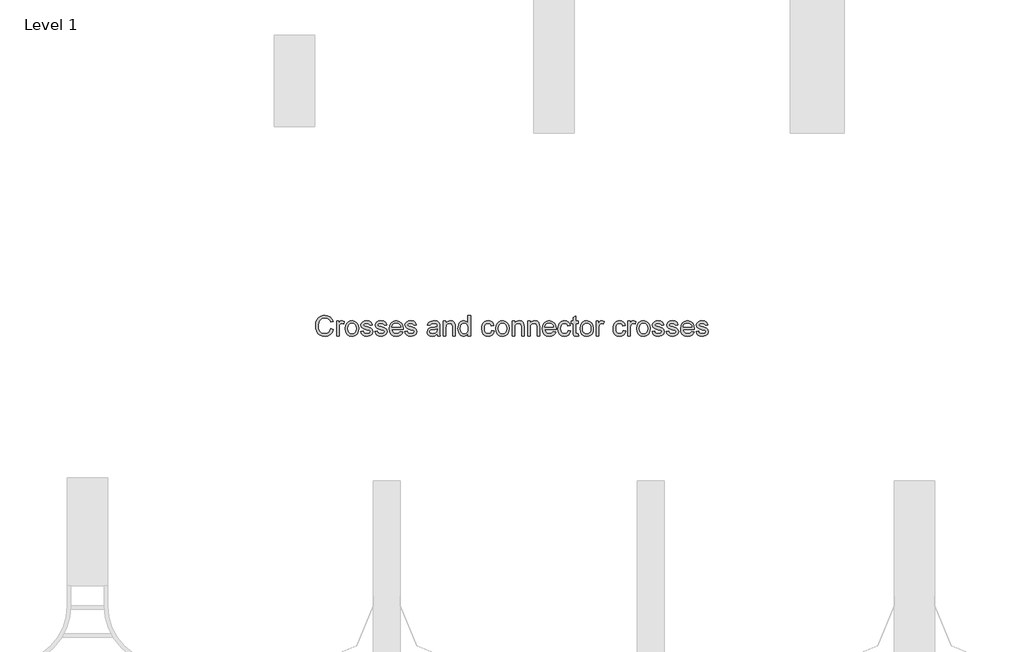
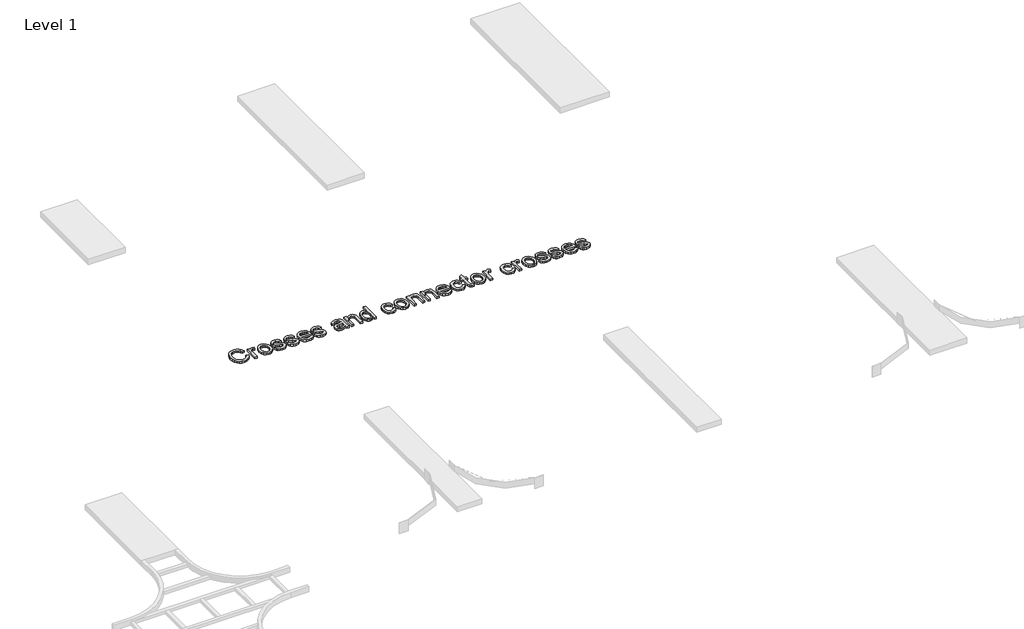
# One storey, part 47 of 106: 1 proxy.
"""IFC4 building model written with IfcOpenShell, lengths in millimetres."""

from ifc_helpers import new_model, si_unit, origin, origin_with_axes, place, context, project, spatial, polyline, outline, extrude, element, save

model = new_model("IFC4")

# Units and contexts
model_context = context("Model", 3, world=origin())
ifc_project = project(units=[si_unit("LENGTHUNIT", "METRE", prefix="MILLI")], contexts=[model_context])

# Site, building, storey
site = spatial("IfcSite", under=ifc_project)
building = spatial("IfcBuilding", under=site)
storey = spatial("IfcBuildingStorey", under=building, Name="Level 1", Elevation=0.0)

# Proxy
placement = place(None, origin())
element("IfcBuildingElementProxy", 1, Name="150mm Arial 2", ObjectType="150mm Arial 2", at=placement, inside=storey, context=model_context, shape_type="SweptSolid", body=[
    extrude(outline(polyline([(54473.187076, 30901.4112533), (54492.0226342, 30896.5552109), (54483.331422, 30874.6064514), (54469.6921971, 30858.5713949), (54451.7763439, 30848.7627412), (54430.2552472, 30845.49319), (54408.4076552, 30847.9671964), (54391.0574206, 30855.3892157), (54377.7584865, 30867.5017304), (54368.0647959, 30884.0472231), (54362.1464943, 30903.4989836), (54360.1737271, 30924.3303016), (54362.4040117, 30946.3020537), (54369.0948655, 30965.2755676), (54379.8968006, 30980.6484365), (54394.460329, 30991.8182536), (54411.7323887, 30998.619472), (54430.6599174, 31000.8865448), (54451.3118929, 30997.9526859), (54468.386216, 30989.1511091), (54481.3494578, 30975.0244405), (54489.6681894, 30956.115306), (54470.8326312, 30951.6271456), (54464.3027258, 30965.3629396), (54455.3815874, 30974.7853172), (54443.9588515, 30980.2345693), (54429.9241534, 30982.0509866), (54413.7465426, 30980.0368327), (54400.4568056, 30973.9943709), (54390.3722404, 30964.5581977), (54383.8101453, 30952.3629096), (54379.0092852, 30924.3670898), (54380.4302295, 30906.9662714), (54384.6930621, 30891.9198978), (54391.9587315, 30879.8027846), (54402.388186, 30871.1897474), (54414.8915754, 30866.043998), (54428.379049, 30864.3287482), (54444.1014058, 30866.6647988), (54457.2026033, 30873.6729508), (54467.0940305, 30885.2796278), (54473.187076, 30901.4112533)])), origin_with_axes(), (0.0, 0.0, 1.0), 15.0),
    extrude(outline(polyline([(54515.5670819, 30847.8476348), (54515.5670819, 30958.5065389), (54532.0481952, 30958.5065389), (54532.0481952, 30942.1357901), (54543.7468427, 30957.2189519), (54555.5190665, 30960.8609837), (54574.4282011, 30955.0484482), (54568.137419, 30938.1626646), (54554.8936671, 30942.0254255), (54544.2434834, 30938.3098174), (54537.4560606, 30928.0091215), (54534.40264, 30906.0097782), (54534.40264, 30847.8476348), (54515.5670819, 30847.8476348)])), origin_with_axes(), (0.0, 0.0, 1.0), 15.0),
    extrude(outline(polyline([(54581.4915354, 30903.1770869), (54585.5658285, 30929.8577286), (54597.7887078, 30948.6105133), (54612.8902637, 30957.7983661), (54630.9716637, 30960.8609837), (54650.7591166, 30957.13158), (54666.5642468, 30945.9433688), (54676.9247235, 30928.179267), (54680.3782157, 30904.7221912), (54678.8515054, 30885.693495), (54674.2713746, 30871.2081415), (54666.7711804, 30860.3602211), (54656.4842801, 30852.2438246), (54644.2659993, 30847.1808487), (54630.9716637, 30845.49319), (54610.9450876, 30849.2087982), (54595.1583515, 30860.3556226), (54584.9082394, 30878.492205), (54581.4915354, 30903.1770869)]), holes=[polyline([(54600.3270935, 30903.2138751), (54602.5067944, 30886.1671431), (54609.0458968, 30874.0224387), (54618.8867402, 30866.7521708), (54630.9716637, 30864.3287482), (54643.001405, 30866.7659664), (54652.8238543, 30874.077621), (54659.3629567, 30886.3832738), (54661.5426575, 30903.8024862), (54659.3491611, 30920.3525775), (54652.768672, 30932.331735), (54642.9324271, 30939.6020029), (54630.9716637, 30942.0254255), (54618.8867402, 30939.6112), (54609.0458968, 30932.3685232), (54602.5067944, 30920.25141), (54600.3270935, 30903.2138751)])]), origin_with_axes(), (0.0, 0.0, 1.0), 15.0),
    extrude(outline(polyline([(54694.5048843, 30880.8098615), (54713.3404425, 30883.1643063), (54716.3110896, 30875.1076906), (54722.0592457, 30869.1847905), (54742.0352381, 30864.3287482), (54761.2386782, 30868.7801203), (54767.4926722, 30879.227969), (54765.9199766, 30884.028829), (54761.20189, 30887.6892549), (54741.8145089, 30893.060332), (54713.4508071, 30902.275776), (54701.0715779, 30913.0363243), (54696.8593291, 30928.2298507), (54700.2438434, 30942.2645488), (54709.4776815, 30952.988309), (54721.4522405, 30958.5617212), (54737.6574423, 30960.8609837), (54760.5764906, 30957.1637696), (54775.1446177, 30947.1573794), (54781.6193408, 30930.2532017), (54762.7837826, 30927.8987569), (54755.7020542, 30938.2914233), (54739.1289703, 30942.0254255), (54721.1027526, 30938.4569702), (54715.6948872, 30930.1428371), (54717.9389674, 30924.6613954), (54724.9655135, 30920.5043288), (54741.1891095, 30916.4944151), (54768.8354414, 30907.628459), (54781.6745231, 30897.5852805), (54786.3282303, 30881.2145317), (54780.8651827, 30863.188314), (54765.1014392, 30850.1101091), (54741.7777207, 30845.49319), (54722.7858127, 30847.7188761), (54708.9258585, 30854.3959343), (54699.6736263, 30865.4507882), (54694.5048843, 30880.8098615)])), origin_with_axes(), (0.0, 0.0, 1.0), 15.0),
    extrude(outline(polyline([(54800.4548989, 30880.8098615), (54819.2904571, 30883.1643063), (54822.2611042, 30875.1076906), (54828.0092604, 30869.1847905), (54847.9852527, 30864.3287482), (54867.1886928, 30868.7801203), (54873.4426868, 30879.227969), (54871.8699912, 30884.028829), (54867.1519046, 30887.6892549), (54847.7645235, 30893.060332), (54819.4008217, 30902.275776), (54807.0215925, 30913.0363243), (54802.8093437, 30928.2298507), (54806.193858, 30942.2645488), (54815.4276961, 30952.988309), (54827.4022551, 30958.5617212), (54843.607457, 30960.8609837), (54866.5265053, 30957.1637696), (54881.0946323, 30947.1573794), (54887.5693554, 30930.2532017), (54868.7337972, 30927.8987569), (54861.6520688, 30938.2914233), (54845.0789849, 30942.0254255), (54827.0527672, 30938.4569702), (54821.6449018, 30930.1428371), (54823.888982, 30924.6613954), (54830.9155281, 30920.5043288), (54847.1391241, 30916.4944151), (54874.785456, 30907.628459), (54887.6245377, 30897.5852805), (54892.2782449, 30881.2145317), (54886.8151973, 30863.188314), (54871.0514538, 30850.1101091), (54847.7277353, 30845.49319), (54828.7358273, 30847.7188761), (54814.8758731, 30854.3959343), (54805.623641, 30865.4507882), (54800.4548989, 30880.8098615)])), origin_with_axes(), (0.0, 0.0, 1.0), 15.0),
    extrude(outline(polyline([(54990.944196, 30880.8098615), (55009.4118722, 30878.4554168), (55002.7578066, 30864.5402803), (54992.1398125, 30854.1384169), (54977.7970132, 30847.6544967), (54959.968532, 30845.49319), (54937.8680212, 30849.2225937), (54920.8626759, 30860.4108049), (54910.0193541, 30878.3312566), (54906.4049135, 30902.2573819), (54910.0561423, 30926.988249), (54921.0098287, 30945.4835163), (54937.7852477, 30957.0166168), (54958.9016742, 30960.8609837), (54979.3605117, 30957.0258139), (54995.7082679, 30945.5203045), (55006.4274295, 30927.0618254), (55010.0004834, 30902.3677465), (55009.8901188, 30897.2909749), (54925.2404717, 30897.2909749), (54928.5008259, 30883.1918975), (54936.0745964, 30872.8268223), (54947.0052902, 30866.4532667), (54960.336414, 30864.3287482), (54978.8040902, 30868.2650855), (54990.944196, 30880.8098615)]), holes=[polyline([(54925.2404717, 30916.1265331), (54991.1649252, 30916.1265331), (54988.6173424, 30926.0777411), (54983.6233443, 30933.1962577), (54972.6420668, 30939.8181336), (54958.8280978, 30942.0254255), (54946.1315705, 30940.2641905), (54935.633138, 30934.9804853), (54928.335279, 30926.7445272), (54925.2404717, 30916.1265331)])]), origin_with_axes(), (0.0, 0.0, 1.0), 15.0),
    extrude(outline(polyline([(55021.7727072, 30880.8098615), (55040.6082654, 30883.1643063), (55043.5789125, 30875.1076906), (55049.3270687, 30869.1847905), (55069.303061, 30864.3287482), (55088.5065011, 30868.7801203), (55094.7604951, 30879.227969), (55093.1877995, 30884.028829), (55088.4697129, 30887.6892549), (55069.0823318, 30893.060332), (55040.71863, 30902.275776), (55028.3394008, 30913.0363243), (55024.127152, 30928.2298507), (55027.5116663, 30942.2645488), (55036.7455044, 30952.988309), (55048.7200634, 30958.5617212), (55064.9252653, 30960.8609837), (55087.8443136, 30957.1637696), (55102.4124406, 30947.1573794), (55108.8871637, 30930.2532017), (55090.0516055, 30927.8987569), (55082.9698771, 30938.2914233), (55066.3967932, 30942.0254255), (55048.3705755, 30938.4569702), (55042.9627101, 30930.1428371), (55045.2067903, 30924.6613954), (55052.2333364, 30920.5043288), (55068.4569324, 30916.4944151), (55096.1032643, 30907.628459), (55108.942346, 30897.5852805), (55113.5960532, 30881.2145317), (55108.1330056, 30863.188314), (55092.3692621, 30850.1101091), (55069.0455436, 30845.49319), (55050.0536356, 30847.7188761), (55036.1936814, 30854.3959343), (55026.9414493, 30865.4507882), (55021.7727072, 30880.8098615)])), origin_with_axes(), (0.0, 0.0, 1.0), 15.0),
    extrude(outline(polyline([(55264.2805184, 30861.9743034), (55246.0151774, 30849.2087982), (55225.8368499, 30845.49319), (55210.0960991, 30847.7280731), (55198.4848236, 30854.4327225), (55191.3249203, 30864.6138567), (55188.9382858, 30877.2781944), (55192.5435294, 30892.1774152), (55202.0164908, 30902.9931459), (55215.2050603, 30909.1735634), (55231.5022327, 30912.0062547), (55264.1701538, 30918.4809779), (55264.2805184, 30922.6748326), (55262.9837344, 30931.0809362), (55259.0933823, 30936.580772), (55250.3929731, 30940.6642622), (55238.2712614, 30942.0254255), (55219.214974, 30938.4017879), (55210.1282887, 30925.5443122), (55191.2927306, 30927.8987569), (55199.4413168, 30946.2928567), (55215.8488538, 30957.0717991), (55240.6992825, 30960.8609837), (55263.5263603, 30957.5132575), (55276.4206243, 30949.107154), (55282.1963716, 30936.3232546), (55283.1160766, 30919.8421412), (55283.1160766, 30896.4080581), (55284.0725698, 30863.6849547), (55287.8249661, 30847.8476348), (55268.989408, 30847.8476348), (55264.2805184, 30861.9743034)]), holes=[polyline([(55264.2805184, 30899.6454197), (55233.8934656, 30893.8696724), (55217.6882638, 30890.8162518), (55210.3490179, 30885.8498449), (55207.773844, 30878.6025696), (55213.3840444, 30868.4122383), (55229.8467637, 30864.3287482), (55248.903051, 30868.8353026), (55261.1903097, 30879.7430038), (55264.1701538, 30894.3111308), (55264.2805184, 30899.6454197)])]), origin_with_axes(), (0.0, 0.0, 1.0), 15.0),
    extrude(outline(polyline([(55309.0149691, 30847.8476348), (55309.0149691, 30958.5065389), (55327.8505272, 30958.5065389), (55327.8505272, 30943.0554951), (55342.2531073, 30956.4096116), (55361.9164, 30960.8609837), (55379.7034944, 30957.2741342), (55391.8436003, 30947.8563552), (55397.4905889, 30934.0055981), (55398.4838703, 30915.7954393), (55398.4838703, 30847.8476348), (55379.6483121, 30847.8476348), (55379.6483121, 30913.2570535), (55377.4778084, 30929.9221079), (55369.8074688, 30938.7328817), (55356.8764166, 30942.0254255), (55345.8445553, 30940.1768185), (55336.4405718, 30934.6309974), (55329.9980384, 30923.9164343), (55327.8505272, 30906.5616012), (55327.8505272, 30847.8476348), (55309.0149691, 30847.8476348)])), origin_with_axes(), (0.0, 0.0, 1.0), 15.0),
    extrude(outline(polyline([(55492.661661, 30847.8476348), (55492.661661, 30865.6163351), (55480.1996585, 30850.5239763), (55462.973584, 30845.49319), (55450.79669, 30847.3142059), (55439.6498655, 30852.7772535), (55430.2136924, 30861.5006553), (55423.1687522, 30873.1027337), (55418.7817594, 30887.1144392), (55417.3194284, 30903.0667223), (55422.7088997, 30933.0491049), (55429.4411402, 30944.9408904), (55438.8589193, 30953.6872848), (55450.2494655, 30959.067559), (55462.9000076, 30960.8609837), (55480.2640378, 30955.7290299), (55492.661661, 30942.3933075), (55492.661661, 30998.5321), (55511.4972192, 30998.5321), (55511.4972192, 30847.8476348), (55492.661661, 30847.8476348)]), holes=[polyline([(55436.1549866, 30903.1402987), (55438.2795051, 30886.1027638), (55444.6530607, 30873.9856505), (55453.9144899, 30866.7429738), (55464.7026294, 30864.3287482), (55475.4861704, 30866.6326092), (55484.5130749, 30873.5441921), (55490.6245145, 30885.1922558), (55492.661661, 30901.7055589), (55490.5877263, 30919.7593678), (55484.3659221, 30932.2765527), (55475.1090914, 30939.5882073), (55463.9300772, 30942.0254255), (55453.0315731, 30939.6847764), (55444.1012377, 30932.6628288), (55438.1415494, 30920.6008979), (55436.1549866, 30903.1402987)])]), origin_with_axes(), (0.0, 0.0, 1.0), 15.0),
    extrude(outline(polyline([(55669.2450187, 30887.8731959), (55688.0805769, 30885.5187511), (55682.8290614, 30868.7663247), (55672.9606269, 30856.1065856), (55659.4041754, 30848.1465389), (55643.0886089, 30845.49319), (55623.0528357, 30849.1950026), (55607.3856612, 30860.3004403), (55597.2735049, 30878.3220596), (55593.9027861, 30902.7724167), (55595.3421244, 30919.5340401), (55599.6601393, 30934.0607803), (55606.9258087, 30945.7916175), (55617.2081105, 30954.1655314), (55629.5091647, 30959.1871206), (55642.8310915, 30960.8609837), (55658.7465863, 30958.5617212), (55671.4707048, 30951.6639338), (55680.5987768, 30940.5355035), (55685.7261321, 30925.5443122), (55666.890574, 30923.1898674), (55658.1533766, 30937.2981419), (55642.9782443, 30942.0254255), (55630.8059488, 30939.6985719), (55621.1444479, 30932.7180111), (55614.8398702, 30920.7066639), (55612.7383443, 30903.2874515), (55614.7938849, 30885.6337142), (55620.9605069, 30873.5809803), (55630.4472638, 30866.6418062), (55642.4632095, 30864.3287482), (55652.2166809, 30865.772685), (55660.2135157, 30870.1044955), (55666.0306498, 30877.4345442), (55669.2450187, 30887.8731959)])), origin_with_axes(), (0.0, 0.0, 1.0), 15.0),
    extrude(outline(polyline([(55699.8528007, 30903.1770869), (55703.9270938, 30929.8577286), (55716.1499731, 30948.6105133), (55731.251529, 30957.7983661), (55749.3329291, 30960.8609837), (55769.1203819, 30957.13158), (55784.9255121, 30945.9433688), (55795.2859888, 30928.179267), (55798.739481, 30904.7221912), (55797.2127708, 30885.693495), (55792.6326399, 30871.2081415), (55785.1324457, 30860.3602211), (55774.8455454, 30852.2438246), (55762.6272647, 30847.1808487), (55749.3329291, 30845.49319), (55729.306353, 30849.2087982), (55713.5196168, 30860.3556226), (55703.2695048, 30878.492205), (55699.8528007, 30903.1770869)]), holes=[polyline([(55718.6883589, 30903.2138751), (55720.8680597, 30886.1671431), (55727.4071622, 30874.0224387), (55737.2480055, 30866.7521708), (55749.3329291, 30864.3287482), (55761.3626703, 30866.7659664), (55771.1851196, 30874.077621), (55777.7242221, 30886.3832738), (55779.9039229, 30903.8024862), (55777.7104265, 30920.3525775), (55771.1299373, 30932.331735), (55761.2936924, 30939.6020029), (55749.3329291, 30942.0254255), (55737.2480055, 30939.6112), (55727.4071622, 30932.3685232), (55720.8680597, 30920.25141), (55718.6883589, 30903.2138751)])]), origin_with_axes(), (0.0, 0.0, 1.0), 15.0),
    extrude(outline(polyline([(55819.929484, 30847.8476348), (55819.929484, 30958.5065389), (55838.7650421, 30958.5065389), (55838.7650421, 30943.0554951), (55853.1676222, 30956.4096116), (55872.8309149, 30960.8609837), (55890.6180093, 30957.2741342), (55902.7581152, 30947.8563552), (55908.4051038, 30934.0055981), (55909.3983852, 30915.7954393), (55909.3983852, 30847.8476348), (55890.562827, 30847.8476348), (55890.562827, 30913.2570535), (55888.3923233, 30929.9221079), (55880.7219837, 30938.7328817), (55867.7909315, 30942.0254255), (55856.7590702, 30940.1768185), (55847.3550867, 30934.6309974), (55840.9125533, 30923.9164343), (55838.7650421, 30906.5616012), (55838.7650421, 30847.8476348), (55819.929484, 30847.8476348)])), origin_with_axes(), (0.0, 0.0, 1.0), 15.0),
    extrude(outline(polyline([(55935.2972776, 30847.8476348), (55935.2972776, 30958.5065389), (55954.1328358, 30958.5065389), (55954.1328358, 30943.0554951), (55968.5354159, 30956.4096116), (55988.1987085, 30960.8609837), (56005.985803, 30957.2741342), (56018.1259089, 30947.8563552), (56023.7728975, 30934.0055981), (56024.7661789, 30915.7954393), (56024.7661789, 30847.8476348), (56005.9306207, 30847.8476348), (56005.9306207, 30913.2570535), (56003.7601169, 30929.9221079), (55996.0897773, 30938.7328817), (55983.1587252, 30942.0254255), (55972.1268639, 30940.1768185), (55962.7228804, 30934.6309974), (55956.2803469, 30923.9164343), (55954.1328358, 30906.5616012), (55954.1328358, 30847.8476348), (55935.2972776, 30847.8476348)])), origin_with_axes(), (0.0, 0.0, 1.0), 15.0),
    extrude(outline(polyline([(56128.1410195, 30880.8098615), (56146.6086957, 30878.4554168), (56139.9546301, 30864.5402803), (56129.336636, 30854.1384169), (56114.9938367, 30847.6544967), (56097.1653555, 30845.49319), (56075.0648447, 30849.2225937), (56058.0594994, 30860.4108049), (56047.2161776, 30878.3312566), (56043.601737, 30902.2573819), (56047.2529658, 30926.988249), (56058.2066522, 30945.4835163), (56074.9820712, 30957.0166168), (56096.0984977, 30960.8609837), (56116.5573352, 30957.0258139), (56132.9050914, 30945.5203045), (56143.624253, 30927.0618254), (56147.1973069, 30902.3677465), (56147.0869423, 30897.2909749), (56062.4372952, 30897.2909749), (56065.6976494, 30883.1918975), (56073.2714199, 30872.8268223), (56084.2021137, 30866.4532667), (56097.5332375, 30864.3287482), (56116.0009137, 30868.2650855), (56128.1410195, 30880.8098615)]), holes=[polyline([(56062.4372952, 30916.1265331), (56128.3617487, 30916.1265331), (56125.8141659, 30926.0777411), (56120.8201678, 30933.1962577), (56109.8388903, 30939.8181336), (56096.0249213, 30942.0254255), (56083.328394, 30940.2641905), (56072.8299615, 30934.9804853), (56065.5321025, 30926.7445272), (56062.4372952, 30916.1265331)])]), origin_with_axes(), (0.0, 0.0, 1.0), 15.0),
    extrude(outline(polyline([(56236.6662081, 30887.8731959), (56255.5017662, 30885.5187511), (56250.2502508, 30868.7663247), (56240.3818162, 30856.1065856), (56226.8253647, 30848.1465389), (56210.5097982, 30845.49319), (56190.4740251, 30849.1950026), (56174.8068506, 30860.3004403), (56164.6946943, 30878.3220596), (56161.3239755, 30902.7724167), (56162.7633138, 30919.5340401), (56167.0813287, 30934.0607803), (56174.3469981, 30945.7916175), (56184.6292999, 30954.1655314), (56196.9303541, 30959.1871206), (56210.2522808, 30960.8609837), (56226.1677757, 30958.5617212), (56238.8918942, 30951.6639338), (56248.0199662, 30940.5355035), (56253.1473215, 30925.5443122), (56234.3117633, 30923.1898674), (56225.5745659, 30937.2981419), (56210.3994336, 30942.0254255), (56198.2271381, 30939.6985719), (56188.5656372, 30932.7180111), (56182.2610595, 30920.7066639), (56180.1595336, 30903.2874515), (56182.2150743, 30885.6337142), (56188.3816962, 30873.5809803), (56197.8684532, 30866.6418062), (56209.8843988, 30864.3287482), (56219.6378702, 30865.772685), (56227.6347051, 30870.1044955), (56233.4518392, 30877.4345442), (56236.6662081, 30887.8731959)])), origin_with_axes(), (0.0, 0.0, 1.0), 15.0),
    extrude(outline(polyline([(56312.0084407, 30863.556196), (56314.3628855, 30847.2958118), (56300.2730051, 30845.49319), (56284.4908675, 30848.620187), (56276.6181928, 30856.8239555), (56274.3373244, 30878.1978994), (56274.3373244, 30939.6709808), (56260.2106558, 30939.6709808), (56260.2106558, 30958.5065389), (56274.3373244, 30958.5065389), (56274.3373244, 30985.3987128), (56293.1728826, 30996.4719608), (56293.1728826, 30958.5065389), (56312.0084407, 30958.5065389), (56312.0084407, 30939.6709808), (56293.1728826, 30939.6709808), (56293.1728826, 30878.7497224), (56294.1661639, 30869.0376377), (56297.3851314, 30865.597941), (56303.8046722, 30864.3287482), (56312.0084407, 30863.556196)])), origin_with_axes(), (0.0, 0.0, 1.0), 15.0),
    extrude(outline(polyline([(56326.1351093, 30903.1770869), (56330.2094024, 30929.8577286), (56342.4322817, 30948.6105133), (56357.5338376, 30957.7983661), (56375.6152377, 30960.8609837), (56395.4026905, 30957.13158), (56411.2078207, 30945.9433688), (56421.5682974, 30928.179267), (56425.0217896, 30904.7221912), (56423.4950793, 30885.693495), (56418.9149485, 30871.2081415), (56411.4147543, 30860.3602211), (56401.127854, 30852.2438246), (56388.9095733, 30847.1808487), (56375.6152377, 30845.49319), (56355.5886616, 30849.2087982), (56339.8019254, 30860.3556226), (56329.5518133, 30878.492205), (56326.1351093, 30903.1770869)]), holes=[polyline([(56344.9706675, 30903.2138751), (56347.1503683, 30886.1671431), (56353.6894708, 30874.0224387), (56363.5303141, 30866.7521708), (56375.6152377, 30864.3287482), (56387.6449789, 30866.7659664), (56397.4674282, 30874.077621), (56404.0065306, 30886.3832738), (56406.1862315, 30903.8024862), (56403.9927351, 30920.3525775), (56397.4122459, 30932.331735), (56387.576001, 30939.6020029), (56375.6152377, 30942.0254255), (56363.5303141, 30939.6112), (56353.6894708, 30932.3685232), (56347.1503683, 30920.25141), (56344.9706675, 30903.2138751)])]), origin_with_axes(), (0.0, 0.0, 1.0), 15.0),
    extrude(outline(polyline([(56446.2117925, 30847.8476348), (56446.2117925, 30958.5065389), (56462.6929059, 30958.5065389), (56462.6929059, 30942.1357901), (56474.3915534, 30957.2189519), (56486.1637772, 30960.8609837), (56505.0729118, 30955.0484482), (56498.7821297, 30938.1626646), (56485.5383778, 30942.0254255), (56474.8881941, 30938.3098174), (56468.1007713, 30928.0091215), (56465.0473507, 30906.0097782), (56465.0473507, 30847.8476348), (56446.2117925, 30847.8476348)])), origin_with_axes(), (0.0, 0.0, 1.0), 15.0),
    extrude(outline(polyline([(56646.3395979, 30887.8731959), (56665.1751561, 30885.5187511), (56659.9236406, 30868.7663247), (56650.0552061, 30856.1065856), (56636.4987545, 30848.1465389), (56620.1831881, 30845.49319), (56600.1474149, 30849.1950026), (56584.4802404, 30860.3004403), (56574.3680841, 30878.3220596), (56570.9973653, 30902.7724167), (56572.4367036, 30919.5340401), (56576.7547185, 30934.0607803), (56584.0203879, 30945.7916175), (56594.3026897, 30954.1655314), (56606.6037439, 30959.1871206), (56619.9256707, 30960.8609837), (56635.8411655, 30958.5617212), (56648.565284, 30951.6639338), (56657.693356, 30940.5355035), (56662.8207113, 30925.5443122), (56643.9851532, 30923.1898674), (56635.2479558, 30937.2981419), (56620.0728235, 30942.0254255), (56607.9005279, 30939.6985719), (56598.2390271, 30932.7180111), (56591.9344494, 30920.7066639), (56589.8329235, 30903.2874515), (56591.8884641, 30885.6337142), (56598.0550861, 30873.5809803), (56607.541843, 30866.6418062), (56619.5577887, 30864.3287482), (56629.3112601, 30865.772685), (56637.3080949, 30870.1044955), (56643.125229, 30877.4345442), (56646.3395979, 30887.8731959)])), origin_with_axes(), (0.0, 0.0, 1.0), 15.0),
    extrude(outline(polyline([(56681.6562695, 30847.8476348), (56681.6562695, 30958.5065389), (56698.1373828, 30958.5065389), (56698.1373828, 30942.1357901), (56709.8360303, 30957.2189519), (56721.6082541, 30960.8609837), (56740.5173887, 30955.0484482), (56734.2266066, 30938.1626646), (56720.9828547, 30942.0254255), (56710.332671, 30938.3098174), (56703.5452482, 30928.0091215), (56700.4918276, 30906.0097782), (56700.4918276, 30847.8476348), (56681.6562695, 30847.8476348)])), origin_with_axes(), (0.0, 0.0, 1.0), 15.0),
    extrude(outline(polyline([(56747.580723, 30903.1770869), (56751.6550161, 30929.8577286), (56763.8778954, 30948.6105133), (56778.9794513, 30957.7983661), (56797.0608513, 30960.8609837), (56816.8483042, 30957.13158), (56832.6534344, 30945.9433688), (56843.0139111, 30928.179267), (56846.4674033, 30904.7221912), (56844.940693, 30885.693495), (56840.3605622, 30871.2081415), (56832.860368, 30860.3602211), (56822.5734677, 30852.2438246), (56810.3551869, 30847.1808487), (56797.0608513, 30845.49319), (56777.0342752, 30849.2087982), (56761.2475391, 30860.3556226), (56750.997427, 30878.492205), (56747.580723, 30903.1770869)]), holes=[polyline([(56766.4162811, 30903.2138751), (56768.595982, 30886.1671431), (56775.1350844, 30874.0224387), (56784.9759278, 30866.7521708), (56797.0608513, 30864.3287482), (56809.0905926, 30866.7659664), (56818.9130419, 30874.077621), (56825.4521443, 30886.3832738), (56827.6318451, 30903.8024862), (56825.4383487, 30920.3525775), (56818.8578596, 30932.331735), (56809.0216147, 30939.6020029), (56797.0608513, 30942.0254255), (56784.9759278, 30939.6112), (56775.1350844, 30932.3685232), (56768.595982, 30920.25141), (56766.4162811, 30903.2138751)])]), origin_with_axes(), (0.0, 0.0, 1.0), 15.0),
    extrude(outline(polyline([(56860.5940719, 30880.8098615), (56879.4296301, 30883.1643063), (56882.4002772, 30875.1076906), (56888.1484333, 30869.1847905), (56908.1244257, 30864.3287482), (56927.3278658, 30868.7801203), (56933.5818598, 30879.227969), (56932.0091642, 30884.028829), (56927.2910776, 30887.6892549), (56907.9036965, 30893.060332), (56879.5399947, 30902.275776), (56867.1607655, 30913.0363243), (56862.9485167, 30928.2298507), (56866.333031, 30942.2645488), (56875.5668691, 30952.988309), (56887.5414281, 30958.5617212), (56903.7466299, 30960.8609837), (56926.6656782, 30957.1637696), (56941.2338053, 30947.1573794), (56947.7085284, 30930.2532017), (56928.8729702, 30927.8987569), (56921.7912418, 30938.2914233), (56905.2181579, 30942.0254255), (56887.1919402, 30938.4569702), (56881.7840748, 30930.1428371), (56884.028155, 30924.6613954), (56891.0547011, 30920.5043288), (56907.2782971, 30916.4944151), (56934.924629, 30907.628459), (56947.7637107, 30897.5852805), (56952.4174179, 30881.2145317), (56946.9543703, 30863.188314), (56931.1906268, 30850.1101091), (56907.8669083, 30845.49319), (56888.8750003, 30847.7188761), (56875.0150461, 30854.3959343), (56865.7628139, 30865.4507882), (56860.5940719, 30880.8098615)])), origin_with_axes(), (0.0, 0.0, 1.0), 15.0),
    extrude(outline(polyline([(56966.5440865, 30880.8098615), (56985.3796447, 30883.1643063), (56988.3502918, 30875.1076906), (56994.098448, 30869.1847905), (57014.0744403, 30864.3287482), (57033.2778804, 30868.7801203), (57039.5318744, 30879.227969), (57037.9591788, 30884.028829), (57033.2410922, 30887.6892549), (57013.8537111, 30893.060332), (56985.4900093, 30902.275776), (56973.1107801, 30913.0363243), (56968.8985313, 30928.2298507), (56972.2830456, 30942.2645488), (56981.5168837, 30952.988309), (56993.4914427, 30958.5617212), (57009.6966446, 30960.8609837), (57032.6156929, 30957.1637696), (57047.1838199, 30947.1573794), (57053.658543, 30930.2532017), (57034.8229848, 30927.8987569), (57027.7412564, 30938.2914233), (57011.1681725, 30942.0254255), (56993.1419548, 30938.4569702), (56987.7340894, 30930.1428371), (56989.9781696, 30924.6613954), (56997.0047157, 30920.5043288), (57013.2283117, 30916.4944151), (57040.8746436, 30907.628459), (57053.7137253, 30897.5852805), (57058.3674325, 30881.2145317), (57052.9043849, 30863.188314), (57037.1406414, 30850.1101091), (57013.8169229, 30845.49319), (56994.8250149, 30847.7188761), (56980.9650607, 30854.3959343), (56971.7128286, 30865.4507882), (56966.5440865, 30880.8098615)])), origin_with_axes(), (0.0, 0.0, 1.0), 15.0),
    extrude(outline(polyline([(57157.0333836, 30880.8098615), (57175.5010598, 30878.4554168), (57168.8469942, 30864.5402803), (57158.2290001, 30854.1384169), (57143.8862008, 30847.6544967), (57126.0577196, 30845.49319), (57103.9572088, 30849.2225937), (57086.9518635, 30860.4108049), (57076.1085417, 30878.3312566), (57072.4941011, 30902.2573819), (57076.1453299, 30926.988249), (57087.0990163, 30945.4835163), (57103.8744353, 30957.0166168), (57124.9908618, 30960.8609837), (57145.4496993, 30957.0258139), (57161.7974555, 30945.5203045), (57172.5166171, 30927.0618254), (57176.089671, 30902.3677465), (57175.9793064, 30897.2909749), (57091.3296593, 30897.2909749), (57094.5900135, 30883.1918975), (57102.163784, 30872.8268223), (57113.0944778, 30866.4532667), (57126.4256016, 30864.3287482), (57144.8932778, 30868.2650855), (57157.0333836, 30880.8098615)]), holes=[polyline([(57091.3296593, 30916.1265331), (57157.2541128, 30916.1265331), (57154.70653, 30926.0777411), (57149.7125319, 30933.1962577), (57138.7312544, 30939.8181336), (57124.9172854, 30942.0254255), (57112.2207581, 30940.2641905), (57101.7223256, 30934.9804853), (57094.4244666, 30926.7445272), (57091.3296593, 30916.1265331)])]), origin_with_axes(), (0.0, 0.0, 1.0), 15.0),
    extrude(outline(polyline([(57187.8618948, 30880.8098615), (57206.697453, 30883.1643063), (57209.6681001, 30875.1076906), (57215.4162563, 30869.1847905), (57235.3922486, 30864.3287482), (57254.5956887, 30868.7801203), (57260.8496827, 30879.227969), (57259.2769871, 30884.028829), (57254.5589005, 30887.6892549), (57235.1715194, 30893.060332), (57206.8078176, 30902.275776), (57194.4285884, 30913.0363243), (57190.2163396, 30928.2298507), (57193.6008539, 30942.2645488), (57202.834692, 30952.988309), (57214.809251, 30958.5617212), (57231.0144529, 30960.8609837), (57253.9335012, 30957.1637696), (57268.5016282, 30947.1573794), (57274.9763513, 30930.2532017), (57256.1407931, 30927.8987569), (57249.0590647, 30938.2914233), (57232.4859808, 30942.0254255), (57214.4597631, 30938.4569702), (57209.0518977, 30930.1428371), (57211.2959779, 30924.6613954), (57218.322524, 30920.5043288), (57234.54612, 30916.4944151), (57262.1924519, 30907.628459), (57275.0315336, 30897.5852805), (57279.6852408, 30881.2145317), (57274.2221932, 30863.188314), (57258.4584497, 30850.1101091), (57235.1347312, 30845.49319), (57216.1428232, 30847.7188761), (57202.282869, 30854.3959343), (57193.0306369, 30865.4507882), (57187.8618948, 30880.8098615)])), origin_with_axes(), (0.0, 0.0, 1.0), 15.0),
])

save(model, "model.ifc")
